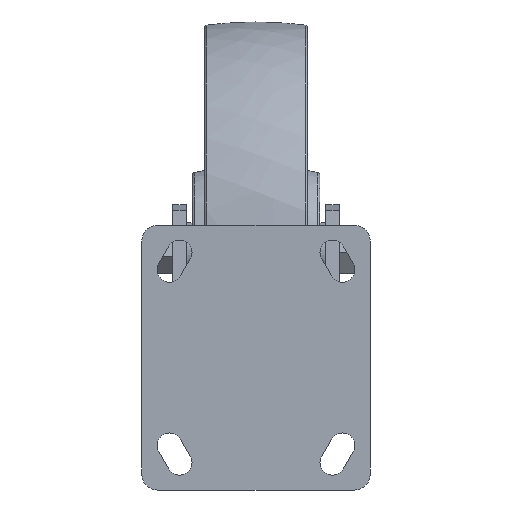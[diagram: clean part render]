
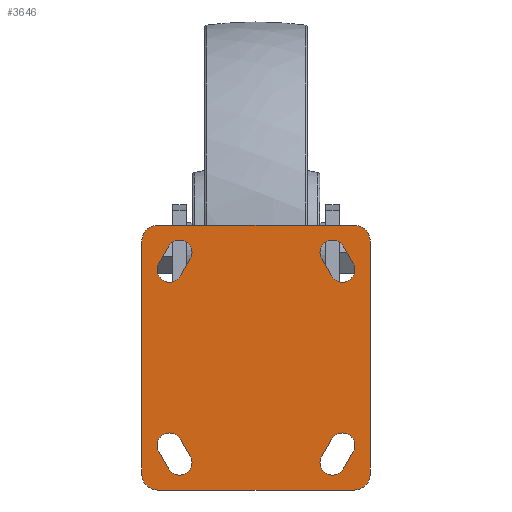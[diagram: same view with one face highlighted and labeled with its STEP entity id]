
A CAD part, front view. The second image highlights one B-rep face of the part: STEP entity #3646.
In plain terms, the highlighted planar face has unit normal (0, -1, 0).
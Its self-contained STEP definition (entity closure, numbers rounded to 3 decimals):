
#2907=DIRECTION('',(1.,0.,0.));
#2908=VECTOR('',#2907,86.);
#2909=CARTESIAN_POINT('',(-43.,0.,-58.));
#2910=LINE('',#2909,#2908);
#2911=CARTESIAN_POINT('',(-43.,0.,-51.));
#2912=DIRECTION('',(0.,-1.,0.));
#2913=DIRECTION('',(-1.,0.,0.));
#2914=AXIS2_PLACEMENT_3D('',#2911,#2912,#2913);
#2916=CARTESIAN_POINT('',(-43.,0.,51.));
#2917=DIRECTION('',(0.,-1.,0.));
#2918=DIRECTION('',(0.,0.,1.));
#2919=AXIS2_PLACEMENT_3D('',#2916,#2917,#2918);
#2921=CARTESIAN_POINT('',(43.,0.,51.));
#2922=DIRECTION('',(0.,-1.,0.));
#2923=DIRECTION('',(1.,0.,0.));
#2924=AXIS2_PLACEMENT_3D('',#2921,#2922,#2923);
#2926=DIRECTION('',(0.,0.,1.));
#2927=VECTOR('',#2926,102.);
#2928=CARTESIAN_POINT('',(50.,0.,-51.));
#2929=LINE('',#2928,#2927);
#2930=CARTESIAN_POINT('',(43.,0.,-51.));
#2931=DIRECTION('',(0.,-1.,0.));
#2932=DIRECTION('',(0.,0.,-1.));
#2933=AXIS2_PLACEMENT_3D('',#2930,#2931,#2932);
#2935=DIRECTION('',(-0.5,0.,-0.866));
#2936=VECTOR('',#2935,8.66);
#2937=CARTESIAN_POINT('',(-38.263,0.,48.75));
#2938=LINE('',#2937,#2936);
#2939=CARTESIAN_POINT('',(-37.83,0.,38.5));
#2940=DIRECTION('',(0.,-1.,0.));
#2941=DIRECTION('',(-0.866,0.,0.5));
#2942=AXIS2_PLACEMENT_3D('',#2939,#2940,#2941);
#2944=DIRECTION('',(0.5,0.,0.866));
#2945=VECTOR('',#2944,8.66);
#2946=CARTESIAN_POINT('',(-33.067,0.,35.75));
#2947=LINE('',#2946,#2945);
#2948=CARTESIAN_POINT('',(-33.5,0.,46.));
#2949=DIRECTION('',(0.,-1.,0.));
#2950=DIRECTION('',(0.866,0.,-0.5));
#2951=AXIS2_PLACEMENT_3D('',#2948,#2949,#2950);
#2953=CARTESIAN_POINT('',(-33.5,0.,-46.));
#2954=DIRECTION('',(0.,-1.,0.));
#2955=DIRECTION('',(-0.866,0.,-0.5));
#2956=AXIS2_PLACEMENT_3D('',#2953,#2954,#2955);
#2958=DIRECTION('',(-0.5,0.,0.866));
#2959=VECTOR('',#2958,8.66);
#2960=CARTESIAN_POINT('',(-28.737,0.,-43.25));
#2961=LINE('',#2960,#2959);
#2962=CARTESIAN_POINT('',(-37.83,0.,-38.5));
#2963=DIRECTION('',(0.,-1.,0.));
#2964=DIRECTION('',(0.866,0.,0.5));
#2965=AXIS2_PLACEMENT_3D('',#2962,#2963,#2964);
#2967=DIRECTION('',(0.5,0.,-0.866));
#2968=VECTOR('',#2967,8.66);
#2969=CARTESIAN_POINT('',(-42.593,0.,-41.25));
#2970=LINE('',#2969,#2968);
#2971=CARTESIAN_POINT('',(33.5,0.,46.));
#2972=DIRECTION('',(0.,-1.,0.));
#2973=DIRECTION('',(0.866,0.,0.5));
#2974=AXIS2_PLACEMENT_3D('',#2971,#2972,#2973);
#2976=DIRECTION('',(0.5,0.,-0.866));
#2977=VECTOR('',#2976,8.66);
#2978=CARTESIAN_POINT('',(28.737,0.,43.25));
#2979=LINE('',#2978,#2977);
#2980=CARTESIAN_POINT('',(37.83,0.,38.5));
#2981=DIRECTION('',(0.,-1.,0.));
#2982=DIRECTION('',(-0.866,0.,-0.5));
#2983=AXIS2_PLACEMENT_3D('',#2980,#2981,#2982);
#2985=DIRECTION('',(-0.5,0.,0.866));
#2986=VECTOR('',#2985,8.66);
#2987=CARTESIAN_POINT('',(42.593,0.,41.25));
#2988=LINE('',#2987,#2986);
#2989=CARTESIAN_POINT('',(33.5,0.,-46.));
#2990=DIRECTION('',(0.,-1.,0.));
#2991=DIRECTION('',(-0.866,0.,0.5));
#2992=AXIS2_PLACEMENT_3D('',#2989,#2990,#2991);
#2994=DIRECTION('',(0.5,0.,0.866));
#2995=VECTOR('',#2994,8.66);
#2996=CARTESIAN_POINT('',(38.263,0.,-48.75));
#2997=LINE('',#2996,#2995);
#2998=CARTESIAN_POINT('',(37.83,0.,-38.5));
#2999=DIRECTION('',(0.,-1.,0.));
#3000=DIRECTION('',(0.866,0.,-0.5));
#3001=AXIS2_PLACEMENT_3D('',#2998,#2999,#3000);
#3003=DIRECTION('',(-0.5,0.,-0.866));
#3004=VECTOR('',#3003,8.66);
#3005=CARTESIAN_POINT('',(33.067,0.,-35.75));
#3006=LINE('',#3005,#3004);
#3149=DIRECTION('',(1.,0.,0.));
#3150=VECTOR('',#3149,86.);
#3151=CARTESIAN_POINT('',(-43.,0.,58.));
#3152=LINE('',#3151,#3150);
#3165=DIRECTION('',(0.,0.,1.));
#3166=VECTOR('',#3165,102.);
#3167=CARTESIAN_POINT('',(-50.,0.,-51.));
#3168=LINE('',#3167,#3166);
#3443=CARTESIAN_POINT('',(-50.,0.,-51.));
#3445=VERTEX_POINT('',#3443);
#3447=CARTESIAN_POINT('',(43.,0.,-58.));
#3448=CARTESIAN_POINT('',(50.,0.,-51.));
#3449=VERTEX_POINT('',#3447);
#3450=VERTEX_POINT('',#3448);
#3454=CARTESIAN_POINT('',(-43.,0.,-58.));
#3456=VERTEX_POINT('',#3454);
#3457=CARTESIAN_POINT('',(-43.,0.,58.));
#3458=CARTESIAN_POINT('',(-50.,0.,51.));
#3459=VERTEX_POINT('',#3457);
#3460=VERTEX_POINT('',#3458);
#3477=CARTESIAN_POINT('',(50.,0.,51.));
#3478=VERTEX_POINT('',#3477);
#3479=CARTESIAN_POINT('',(43.,0.,58.));
#3480=VERTEX_POINT('',#3479);
#3519=CARTESIAN_POINT('',(-38.263,0.,48.75));
#3520=CARTESIAN_POINT('',(-42.593,0.,41.25));
#3521=VERTEX_POINT('',#3519);
#3522=VERTEX_POINT('',#3520);
#3523=CARTESIAN_POINT('',(-33.067,0.,35.75));
#3524=VERTEX_POINT('',#3523);
#3525=CARTESIAN_POINT('',(-28.737,0.,43.25));
#3526=VERTEX_POINT('',#3525);
#3527=CARTESIAN_POINT('',(-38.263,0.,-48.75));
#3528=CARTESIAN_POINT('',(-28.737,0.,-43.25));
#3529=VERTEX_POINT('',#3527);
#3530=VERTEX_POINT('',#3528);
#3531=CARTESIAN_POINT('',(-33.067,0.,-35.75));
#3532=VERTEX_POINT('',#3531);
#3533=CARTESIAN_POINT('',(-42.593,0.,-41.25));
#3534=VERTEX_POINT('',#3533);
#3535=CARTESIAN_POINT('',(38.263,0.,48.75));
#3536=CARTESIAN_POINT('',(28.737,0.,43.25));
#3537=VERTEX_POINT('',#3535);
#3538=VERTEX_POINT('',#3536);
#3539=CARTESIAN_POINT('',(33.067,0.,35.75));
#3540=VERTEX_POINT('',#3539);
#3541=CARTESIAN_POINT('',(42.593,0.,41.25));
#3542=VERTEX_POINT('',#3541);
#3543=CARTESIAN_POINT('',(28.737,0.,-43.25));
#3544=CARTESIAN_POINT('',(38.263,0.,-48.75));
#3545=VERTEX_POINT('',#3543);
#3546=VERTEX_POINT('',#3544);
#3547=CARTESIAN_POINT('',(42.593,0.,-41.25));
#3548=VERTEX_POINT('',#3547);
#3549=CARTESIAN_POINT('',(33.067,0.,-35.75));
#3550=VERTEX_POINT('',#3549);
#3583=CARTESIAN_POINT('',(0.,0.,15.421));
#3584=DIRECTION('',(0.,1.,0.));
#3585=DIRECTION('',(0.,0.,1.));
#3586=AXIS2_PLACEMENT_3D('',#3583,#3584,#3585);
#3587=PLANE('',#3586);
#3589=ORIENTED_EDGE('',*,*,#3588,.F.);
#3591=ORIENTED_EDGE('',*,*,#3590,.F.);
#3593=ORIENTED_EDGE('',*,*,#3592,.T.);
#3595=ORIENTED_EDGE('',*,*,#3594,.F.);
#3597=ORIENTED_EDGE('',*,*,#3596,.T.);
#3599=ORIENTED_EDGE('',*,*,#3598,.F.);
#3601=ORIENTED_EDGE('',*,*,#3600,.F.);
#3603=ORIENTED_EDGE('',*,*,#3602,.F.);
#3604=EDGE_LOOP('',(#3589,#3591,#3593,#3595,#3597,#3599,#3601,#3603));
#3605=FACE_OUTER_BOUND('',#3604,.F.);
#3607=ORIENTED_EDGE('',*,*,#3606,.T.);
#3609=ORIENTED_EDGE('',*,*,#3608,.T.);
#3611=ORIENTED_EDGE('',*,*,#3610,.T.);
#3613=ORIENTED_EDGE('',*,*,#3612,.T.);
#3614=EDGE_LOOP('',(#3607,#3609,#3611,#3613));
#3615=FACE_BOUND('',#3614,.F.);
#3617=ORIENTED_EDGE('',*,*,#3616,.T.);
#3619=ORIENTED_EDGE('',*,*,#3618,.T.);
#3621=ORIENTED_EDGE('',*,*,#3620,.T.);
#3623=ORIENTED_EDGE('',*,*,#3622,.T.);
#3624=EDGE_LOOP('',(#3617,#3619,#3621,#3623));
#3625=FACE_BOUND('',#3624,.F.);
#3627=ORIENTED_EDGE('',*,*,#3626,.T.);
#3629=ORIENTED_EDGE('',*,*,#3628,.T.);
#3631=ORIENTED_EDGE('',*,*,#3630,.T.);
#3633=ORIENTED_EDGE('',*,*,#3632,.T.);
#3634=EDGE_LOOP('',(#3627,#3629,#3631,#3633));
#3635=FACE_BOUND('',#3634,.F.);
#3637=ORIENTED_EDGE('',*,*,#3636,.T.);
#3639=ORIENTED_EDGE('',*,*,#3638,.T.);
#3641=ORIENTED_EDGE('',*,*,#3640,.T.);
#3643=ORIENTED_EDGE('',*,*,#3642,.T.);
#3644=EDGE_LOOP('',(#3637,#3639,#3641,#3643));
#3645=FACE_BOUND('',#3644,.F.);
#2915=CIRCLE('',#2914,7.);
#2920=CIRCLE('',#2919,7.);
#2925=CIRCLE('',#2924,7.);
#2934=CIRCLE('',#2933,7.);
#2943=CIRCLE('',#2942,5.5);
#2952=CIRCLE('',#2951,5.5);
#2957=CIRCLE('',#2956,5.5);
#2966=CIRCLE('',#2965,5.5);
#2975=CIRCLE('',#2974,5.5);
#2984=CIRCLE('',#2983,5.5);
#2993=CIRCLE('',#2992,5.5);
#3002=CIRCLE('',#3001,5.5);
#3588=EDGE_CURVE('',#3456,#3449,#2910,.T.);
#3590=EDGE_CURVE('',#3445,#3456,#2915,.T.);
#3592=EDGE_CURVE('',#3445,#3460,#3168,.T.);
#3594=EDGE_CURVE('',#3459,#3460,#2920,.T.);
#3596=EDGE_CURVE('',#3459,#3480,#3152,.T.);
#3598=EDGE_CURVE('',#3478,#3480,#2925,.T.);
#3600=EDGE_CURVE('',#3450,#3478,#2929,.T.);
#3602=EDGE_CURVE('',#3449,#3450,#2934,.T.);
#3606=EDGE_CURVE('',#3521,#3522,#2938,.T.);
#3608=EDGE_CURVE('',#3522,#3524,#2943,.T.);
#3610=EDGE_CURVE('',#3524,#3526,#2947,.T.);
#3612=EDGE_CURVE('',#3526,#3521,#2952,.T.);
#3616=EDGE_CURVE('',#3529,#3530,#2957,.T.);
#3618=EDGE_CURVE('',#3530,#3532,#2961,.T.);
#3620=EDGE_CURVE('',#3532,#3534,#2966,.T.);
#3622=EDGE_CURVE('',#3534,#3529,#2970,.T.);
#3626=EDGE_CURVE('',#3537,#3538,#2975,.T.);
#3628=EDGE_CURVE('',#3538,#3540,#2979,.T.);
#3630=EDGE_CURVE('',#3540,#3542,#2984,.T.);
#3632=EDGE_CURVE('',#3542,#3537,#2988,.T.);
#3636=EDGE_CURVE('',#3545,#3546,#2993,.T.);
#3638=EDGE_CURVE('',#3546,#3548,#2997,.T.);
#3640=EDGE_CURVE('',#3548,#3550,#3002,.T.);
#3642=EDGE_CURVE('',#3550,#3545,#3006,.T.);
#3646=ADVANCED_FACE('',(#3605,#3615,#3625,#3635,#3645),#3587,.F.);
